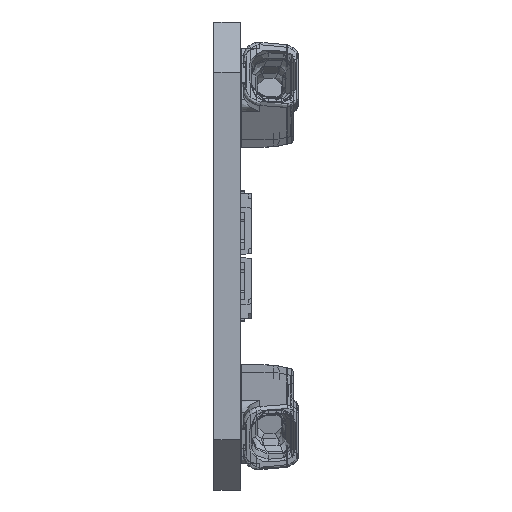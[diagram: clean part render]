
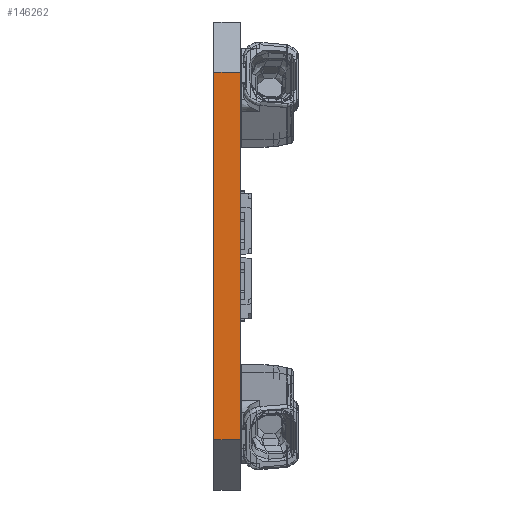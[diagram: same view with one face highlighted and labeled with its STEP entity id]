
A CAD part, left-side view. The second image highlights one B-rep face of the part: STEP entity #146262.
In plain terms, the highlighted planar face has unit normal (-1, 0, 0).
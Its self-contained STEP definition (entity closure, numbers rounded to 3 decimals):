
#12602=ORIENTED_EDGE('',*,*,#44061,.F.);
#12603=ORIENTED_EDGE('',*,*,#46508,.F.);
#12604=ORIENTED_EDGE('',*,*,#46477,.T.);
#12605=ORIENTED_EDGE('',*,*,#46509,.T.);
#44061=EDGE_CURVE('',#61037,#61030,#71453,.T.);
#46477=EDGE_CURVE('',#63454,#63452,#72099,.T.);
#46508=EDGE_CURVE('',#63454,#61037,#72108,.T.);
#46509=EDGE_CURVE('',#63452,#61030,#72109,.T.);
#61030=VERTEX_POINT('',#193939);
#61037=VERTEX_POINT('',#193952);
#63452=VERTEX_POINT('',#203152);
#63454=VERTEX_POINT('',#203155);
#71453=LINE('',#193953,#82921);
#72099=LINE('',#203154,#83567);
#72108=LINE('',#203237,#83576);
#72109=LINE('',#203238,#83577);
#82921=VECTOR('',#163993,1000.);
#83567=VECTOR('',#165269,1000.);
#83576=VECTOR('',#165370,1000.);
#83577=VECTOR('',#165371,1000.);
#93345=EDGE_LOOP('',(#12602,#12603,#12604,#12605));
#99179=FACE_BOUND('',#93345,.T.);
#104640=PLANE('',#153223);
#146262=ADVANCED_FACE('',(#99179),#104640,.T.);
#153223=AXIS2_PLACEMENT_3D('',#203236,#165368,#165369);
#163993=DIRECTION('',(0.,0.,-1.));
#165269=DIRECTION('',(0.,0.,-1.));
#165368=DIRECTION('',(-1.,0.,0.));
#165369=DIRECTION('',(0.,0.,1.));
#165370=DIRECTION('',(0.,-1.,0.));
#165371=DIRECTION('',(0.,-1.,0.));
#193939=CARTESIAN_POINT('',(-559.5,0.,-11.));
#193952=CARTESIAN_POINT('',(-559.5,0.,11.));
#193953=CARTESIAN_POINT('',(-559.5,0.,11.));
#203152=CARTESIAN_POINT('',(-559.5,1.6,-11.));
#203154=CARTESIAN_POINT('',(-559.5,1.6,11.));
#203155=CARTESIAN_POINT('',(-559.5,1.6,11.));
#203236=CARTESIAN_POINT('',(-559.5,1.6,11.));
#203237=CARTESIAN_POINT('',(-559.5,1.6,11.));
#203238=CARTESIAN_POINT('',(-559.5,1.6,-11.));
